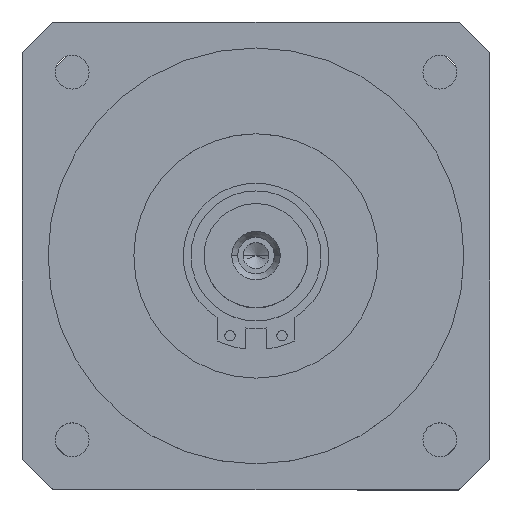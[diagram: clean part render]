
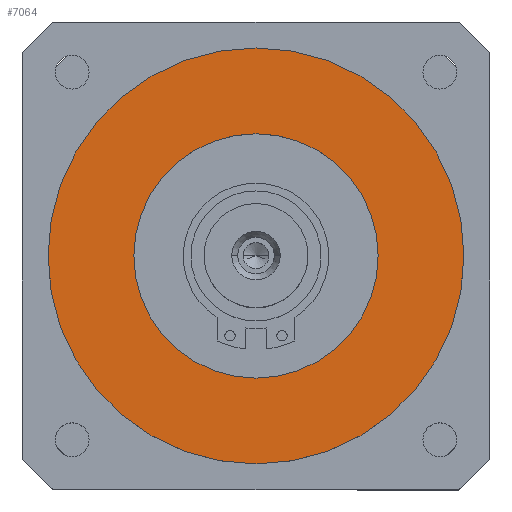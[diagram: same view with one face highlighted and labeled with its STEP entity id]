
A CAD part, top view. The second image highlights one B-rep face of the part: STEP entity #7064.
In plain terms, the highlighted planar face has unit normal (0, 0, 1).
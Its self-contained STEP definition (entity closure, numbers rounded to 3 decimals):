
#936 = DIRECTION ( 'NONE',  ( 1., 0., 0. ) ) ;
#1074 = AXIS2_PLACEMENT_3D ( 'NONE', #11060, #11024, #10994 ) ;
#1322 = CARTESIAN_POINT ( 'NONE',  ( 23.5, 0., 18. ) ) ;
#2497 = VERTEX_POINT ( 'NONE', #1322 ) ;
#2620 = EDGE_CURVE ( 'NONE', #11012, #12987, #29716, .T. ) ;
#2878 = CARTESIAN_POINT ( 'NONE',  ( 0., 0., 18. ) ) ;
#3493 = CARTESIAN_POINT ( 'NONE',  ( 0., 0., 18. ) ) ;
#5245 = DIRECTION ( 'NONE',  ( 1., 0., 0. ) ) ;
#5620 = ORIENTED_EDGE ( 'NONE', *, *, #18821, .F. ) ;
#5854 = DIRECTION ( 'NONE',  ( 1., 0., 0. ) ) ;
#6178 = CARTESIAN_POINT ( 'NONE',  ( -23.5, 0., 18. ) ) ;
#7064 = ADVANCED_FACE ( 'NONE', ( #22014, #22713 ), #17033, .F. ) ;
#7922 = EDGE_LOOP ( 'NONE', ( #15885, #14283 ) ) ;
#7947 = EDGE_LOOP ( 'NONE', ( #18951, #5620 ) ) ;
#9662 = AXIS2_PLACEMENT_3D ( 'NONE', #28637, #15013, #936 ) ;
#10704 = AXIS2_PLACEMENT_3D ( 'NONE', #28600, #28596, #28559 ) ;
#10773 = CIRCLE ( 'NONE', #12024, 23.5 ) ;
#10994 = DIRECTION ( 'NONE',  ( -1., 0., 0. ) ) ;
#11012 = VERTEX_POINT ( 'NONE', #14990 ) ;
#11024 = DIRECTION ( 'NONE',  ( 0., 0., -1. ) ) ;
#11060 = CARTESIAN_POINT ( 'NONE',  ( 0., 30., 18. ) ) ;
#11640 = EDGE_CURVE ( 'NONE', #12987, #11012, #19414, .T. ) ;
#12024 = AXIS2_PLACEMENT_3D ( 'NONE', #2878, #19136, #5245 ) ;
#12987 = VERTEX_POINT ( 'NONE', #28435 ) ;
#14283 = ORIENTED_EDGE ( 'NONE', *, *, #2620, .T. ) ;
#14990 = CARTESIAN_POINT ( 'NONE',  ( -40., 0., 18. ) ) ;
#15013 = DIRECTION ( 'NONE',  ( 0., 0., 1. ) ) ;
#15885 = ORIENTED_EDGE ( 'NONE', *, *, #11640, .T. ) ;
#17033 = PLANE ( 'NONE',  #1074 ) ;
#17116 = VERTEX_POINT ( 'NONE', #6178 ) ;
#17147 = AXIS2_PLACEMENT_3D ( 'NONE', #3493, #19716, #5854 ) ;
#18345 = CIRCLE ( 'NONE', #17147, 23.5 ) ;
#18821 = EDGE_CURVE ( 'NONE', #17116, #2497, #18345, .T. ) ;
#18951 = ORIENTED_EDGE ( 'NONE', *, *, #28875, .F. ) ;
#19136 = DIRECTION ( 'NONE',  ( 0., 0., 1. ) ) ;
#19414 = CIRCLE ( 'NONE', #9662, 40. ) ;
#19716 = DIRECTION ( 'NONE',  ( 0., 0., 1. ) ) ;
#22014 = FACE_BOUND ( 'NONE', #7947, .T. ) ;
#22713 = FACE_OUTER_BOUND ( 'NONE', #7922, .T. ) ;
#28435 = CARTESIAN_POINT ( 'NONE',  ( 40., 0., 18. ) ) ;
#28559 = DIRECTION ( 'NONE',  ( 1., 0., 0. ) ) ;
#28596 = DIRECTION ( 'NONE',  ( 0., 0., 1. ) ) ;
#28600 = CARTESIAN_POINT ( 'NONE',  ( 0., 0., 18. ) ) ;
#28637 = CARTESIAN_POINT ( 'NONE',  ( 0., 0., 18. ) ) ;
#28875 = EDGE_CURVE ( 'NONE', #2497, #17116, #10773, .T. ) ;
#29716 = CIRCLE ( 'NONE', #10704, 40. ) ;
